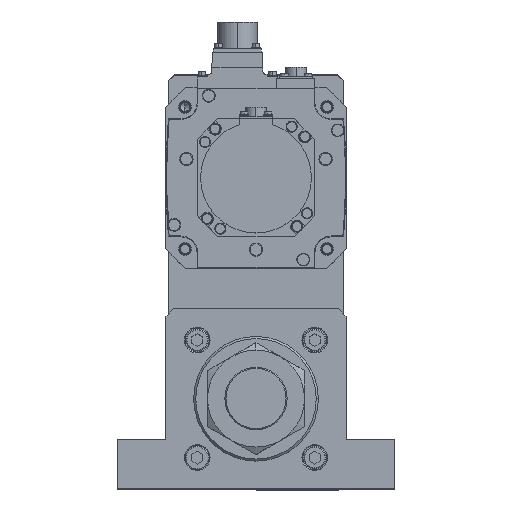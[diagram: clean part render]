
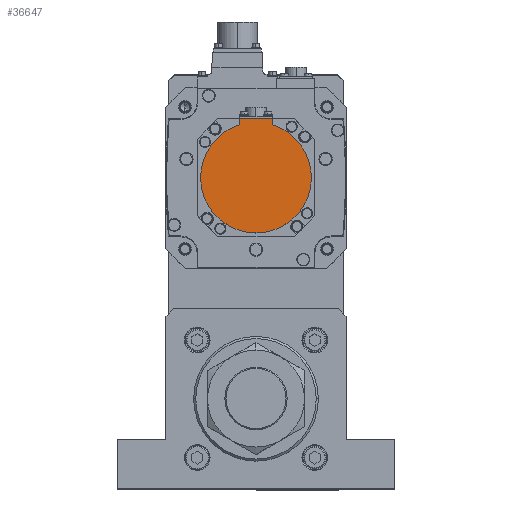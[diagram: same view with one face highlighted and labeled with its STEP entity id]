
A CAD part, top view. The second image highlights one B-rep face of the part: STEP entity #36647.
In plain terms, the highlighted planar face has unit normal (0, 0, 1) as drawn and (0, 0, -1) by its records, which use the part's own axes.
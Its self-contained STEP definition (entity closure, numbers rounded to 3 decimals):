
#654 = CARTESIAN_POINT ( 'NONE',  ( -12., -38.158, -181. ) ) ;
#2383 = CARTESIAN_POINT ( 'NONE',  ( 12., -42.5, -181. ) ) ;
#4214 = VERTEX_POINT ( 'NONE', #2383 ) ;
#4454 = DIRECTION ( 'NONE',  ( -1., 0., 0. ) ) ;
#4764 = ORIENTED_EDGE ( 'NONE', *, *, #25122, .F. ) ;
#5017 = EDGE_CURVE ( 'NONE', #5500, #13663, #19221, .T. ) ;
#5500 = VERTEX_POINT ( 'NONE', #17626 ) ;
#5727 = CARTESIAN_POINT ( 'NONE',  ( -12., -40.329, -181. ) ) ;
#5872 = EDGE_CURVE ( 'NONE', #16158, #5500, #32083, .T. ) ;
#6061 = LINE ( 'NONE', #15904, #37490 ) ;
#6572 = ORIENTED_EDGE ( 'NONE', *, *, #5872, .F. ) ;
#7663 = VECTOR ( 'NONE', #26158, 1000. ) ;
#8723 = FACE_OUTER_BOUND ( 'NONE', #21629, .T. ) ;
#12380 = CARTESIAN_POINT ( 'NONE',  ( 0., -1.25, -181. ) ) ;
#13663 = VERTEX_POINT ( 'NONE', #654 ) ;
#14671 = DIRECTION ( 'NONE',  ( 0., 0., 1. ) ) ;
#14821 = ORIENTED_EDGE ( 'NONE', *, *, #25386, .T. ) ;
#15904 = CARTESIAN_POINT ( 'NONE',  ( 12., -1.25, -181. ) ) ;
#16158 = VERTEX_POINT ( 'NONE', #24543 ) ;
#16489 = CARTESIAN_POINT ( 'NONE',  ( 12., -38.158, -181. ) ) ;
#16699 = AXIS2_PLACEMENT_3D ( 'NONE', #25343, #34263, #28307 ) ;
#17404 = EDGE_CURVE ( 'NONE', #4214, #33574, #6061, .T. ) ;
#17626 = CARTESIAN_POINT ( 'NONE',  ( -40., 0., -181. ) ) ;
#19008 = DIRECTION ( 'NONE',  ( 0., 1., 0. ) ) ;
#19221 = CIRCLE ( 'NONE', #26520, 40. ) ;
#21397 = EDGE_CURVE ( 'NONE', #28103, #13663, #29880, .T. ) ;
#21629 = EDGE_LOOP ( 'NONE', ( #33208, #35122, #6572, #4764, #26449, #14821 ) ) ;
#22153 = CARTESIAN_POINT ( 'NONE',  ( 0., -42.5, -181. ) ) ;
#23870 = DIRECTION ( 'NONE',  ( 1., 0., 0. ) ) ;
#24251 = CIRCLE ( 'NONE', #37778, 40. ) ;
#24511 = PLANE ( 'NONE',  #37999 ) ;
#24543 = CARTESIAN_POINT ( 'NONE',  ( 40., 0., -181. ) ) ;
#24638 = DIRECTION ( 'NONE',  ( 0., 0., 1. ) ) ;
#25122 = EDGE_CURVE ( 'NONE', #33574, #16158, #24251, .T. ) ;
#25343 = CARTESIAN_POINT ( 'NONE',  ( 0., 0., -181. ) ) ;
#25386 = EDGE_CURVE ( 'NONE', #4214, #28103, #34886, .T. ) ;
#26158 = DIRECTION ( 'NONE',  ( 0., 1., 0. ) ) ;
#26282 = CARTESIAN_POINT ( 'NONE',  ( -12., -42.5, -181. ) ) ;
#26449 = ORIENTED_EDGE ( 'NONE', *, *, #17404, .F. ) ;
#26520 = AXIS2_PLACEMENT_3D ( 'NONE', #32637, #29687, #30197 ) ;
#27019 = VECTOR ( 'NONE', #4454, 1000. ) ;
#28103 = VERTEX_POINT ( 'NONE', #26282 ) ;
#28307 = DIRECTION ( 'NONE',  ( 1., 0., 0. ) ) ;
#29687 = DIRECTION ( 'NONE',  ( 0., 0., 1. ) ) ;
#29880 = LINE ( 'NONE', #5727, #7663 ) ;
#30197 = DIRECTION ( 'NONE',  ( 1., 0., 0. ) ) ;
#32083 = CIRCLE ( 'NONE', #16699, 40. ) ;
#32385 = CARTESIAN_POINT ( 'NONE',  ( 0., 0., -181. ) ) ;
#32637 = CARTESIAN_POINT ( 'NONE',  ( 0., 0., -181. ) ) ;
#33208 = ORIENTED_EDGE ( 'NONE', *, *, #21397, .T. ) ;
#33574 = VERTEX_POINT ( 'NONE', #16489 ) ;
#34263 = DIRECTION ( 'NONE',  ( 0., 0., 1. ) ) ;
#34886 = LINE ( 'NONE', #22153, #27019 ) ;
#35122 = ORIENTED_EDGE ( 'NONE', *, *, #5017, .F. ) ;
#36378 = DIRECTION ( 'NONE',  ( 1., 0., 0. ) ) ;
#36647 = ADVANCED_FACE ( 'NONE', ( #8723 ), #24511, .F. ) ;
#37490 = VECTOR ( 'NONE', #19008, 1000. ) ;
#37778 = AXIS2_PLACEMENT_3D ( 'NONE', #32385, #14671, #23870 ) ;
#37999 = AXIS2_PLACEMENT_3D ( 'NONE', #12380, #24638, #36378 ) ;
